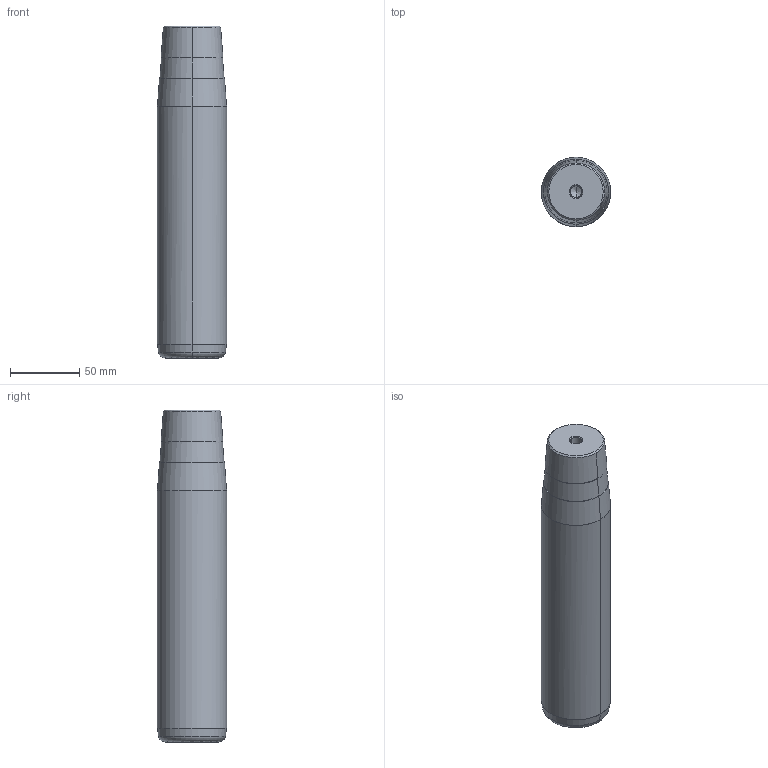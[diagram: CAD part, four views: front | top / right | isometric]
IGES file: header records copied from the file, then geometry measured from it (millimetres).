
Start section: START RECORD GO HERE.
Global section: file name: 722-50x200x240.igs; native system: DASSAULT SYSTEMES CATIA V5 R20 - www.3ds.com; preprocessor: CATIA Version 5 Release 20 ; author: Utente; organization: NB04-ASUS; date: 20210108.155522; units: millimetre
Bounding box: 50 x 50 x 240 mm (x, y, z)
Surface area: 41098 mm2 (no closed solid volume)
Topology: 0 solids, 0 shells, 32 faces, 192 edges, 188 vertices
Faces by surface type: revolution 30, plane 2
